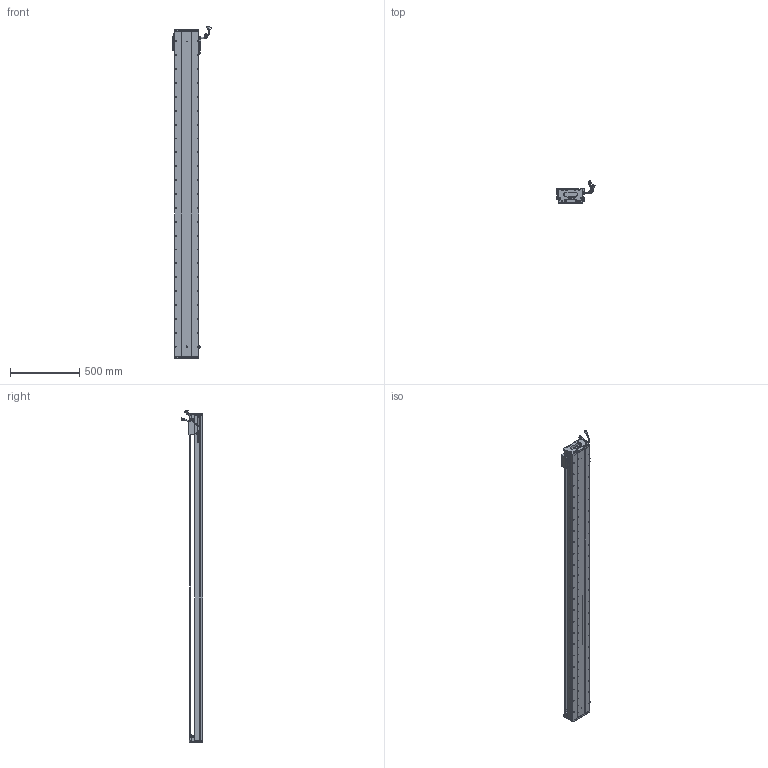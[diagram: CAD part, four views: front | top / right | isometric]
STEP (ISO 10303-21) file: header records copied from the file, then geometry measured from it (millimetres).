
FILE_DESCRIPTION (( 'STEP AP203' ), '1' );
FILE_NAME ('Z1-RY170D-1-L500-B-K.SLDASM_2150.step', '2021-05-17T08:54:49', ( '盈信电脑' ), ( '东莞市道滘镇水果街19号' ), 'SwSTEP 2.0', 'SolidWorks 2016', '' );
FILE_SCHEMA (( 'CONFIG_CONTROL_DESIGN' ));
Length unit declared in the file: millimetre
Products named in the file (36): 080黍杅芛假蚾釱21遴; SCREW-M1.7-1; SCALE; SEAL; Z-RY170詩湍狟揤裔; Z-RY170詩湍奻揤裔; SCALE-Part-2; 170-Z-臏賑輸盄裔(21遴); PSLH080_PSLF2; 140蚥薯蝶輸; SCREW-M1.6-2; Z1-RY170D-1-L500-B-K.SLDASM_2150; LABEL; LABEL-Part-1; HARNESS-Part-2; PBU_SHEET; HARNESS-Part-1; RY170直线电机感应器672光电感应片; SCREW-M1.6-1; Z1-RY170-L500耀郪菁釱_2150; SHIELDPLATE; 覜茼ん672; SEAL-Part-1; 140雄赽晤鎢ん堤盄; Z1-RY170臏賑輸(21遴); SCALE-Part-1; Z-170詩湍傷裔啣; HARNESS; COVER; COVER-Part-1; 榋妏寠巭燃_暯_M2_2; SCREW-M1.6-3; SCREW-M1.6; Z1-RY170-L500詩湍145mm遵_2150; HOLDER0; SCREW-M1.7
Assembly tree (41 placements, depth 4):
  Z1-RY170D-1-L500-B-K.SLDASM_2150
    Z1-RY170-L500耀郪菁釱_2150
    RY170直线电机感应器672光电感应片
    Z1-RY170臏賑輸(21遴)
    覜茼ん672  x3
    PSLH080_PSLF2
      SCALE
        SCALE-Part-1
        SCALE-Part-2
      HARNESS
        HARNESS-Part-1
        HARNESS-Part-2
      LABEL
        LABEL-Part-1
      COVER
        COVER-Part-1
      SEAL
        SEAL-Part-1
      榋妏寠巭燃_暯_M2_2
      SHIELDPLATE
      SCREW-M1.7
      SCREW-M1.7-1
      PBU_SHEET
      SCREW-M1.6
      SCREW-M1.6-1
      SCREW-M1.6-2
      SCREW-M1.6-3
      HOLDER0
    080黍杅芛假蚾釱21遴
    Z1-RY170-L500詩湍145mm遵_2150
    Z-170詩湍傷裔啣  x2
    Z-RY170詩湍奻揤裔  x2
    Z-RY170詩湍狟揤裔  x2
    140蚥薯蝶輸  x2
    170-Z-臏賑輸盄裔(21遴)
    140雄赽晤鎢ん堤盄
Bounding box: 275.34 x 158.11 x 2393.72 mm (x, y, z)
Volume: 11540759.3 mm3; surface area: 2884142.2 mm2
Topology: 36 solids, 36 shells, 3796 faces, 10495 edges, 6563 vertices
Faces by surface type: cylinder 1886, plane 1268, cone 520, torus 69, bspline 53
Entity records: 118519 total; most frequent: CARTESIAN_POINT 33024, ORIENTED_EDGE 17522, DIRECTION 16361, EDGE_CURVE 8761, AXIS2_PLACEMENT_3D 6006, VERTEX_POINT 5681, LINE 4349, VECTOR 4349
